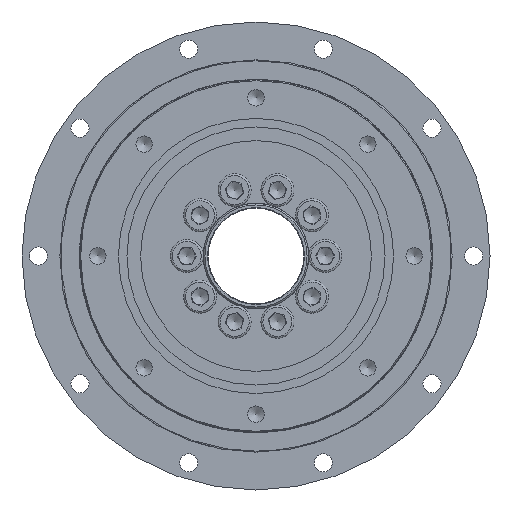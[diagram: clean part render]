
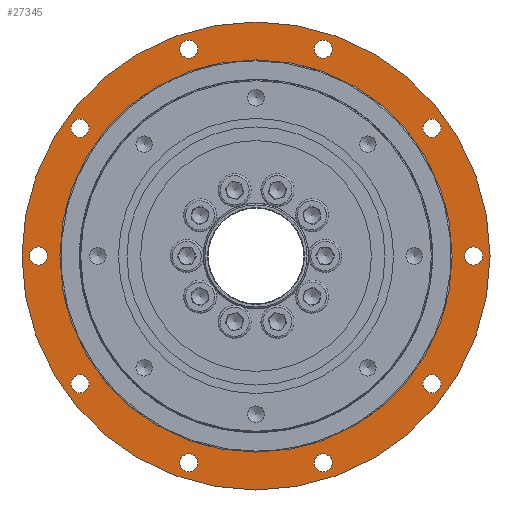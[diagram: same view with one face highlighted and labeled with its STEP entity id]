
A CAD part, left-side view. The second image highlights one B-rep face of the part: STEP entity #27345.
In plain terms, the highlighted planar face has unit normal (-1, 0, 0).
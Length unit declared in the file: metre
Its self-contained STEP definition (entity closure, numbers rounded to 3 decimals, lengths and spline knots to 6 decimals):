
#170 = VERTEX_POINT ( 'NONE', #8814 ) ;
#270 = EDGE_CURVE ( 'NONE', #7570, #7570, #13229, .T. ) ;
#324 = ORIENTED_EDGE ( 'NONE', *, *, #6973, .F. ) ;
#360 = FACE_BOUND ( 'NONE', #15705, .T. ) ;
#459 = CARTESIAN_POINT ( 'NONE',  ( -0.02645, 0.066, -0.00275 ) ) ;
#504 = FACE_BOUND ( 'NONE', #647, .T. ) ;
#647 = EDGE_LOOP ( 'NONE', ( #24076 ) ) ;
#665 = EDGE_LOOP ( 'NONE', ( #21497 ) ) ;
#921 = ORIENTED_EDGE ( 'NONE', *, *, #21642, .F. ) ;
#1034 = CARTESIAN_POINT ( 'NONE',  ( -0.02645, 0.020395, 0.06277 ) ) ;
#1110 = DIRECTION ( 'NONE',  ( 0., 0., -1. ) ) ;
#1190 = DIRECTION ( 'NONE',  ( 0., 0., 1. ) ) ;
#1246 = CARTESIAN_POINT ( 'NONE',  ( -0.02645, -0.066, 0. ) ) ;
#1389 = CIRCLE ( 'NONE', #11752, 0.00275 ) ;
#2100 = DIRECTION ( 'NONE',  ( 1., 0., 0. ) ) ;
#2236 = FACE_BOUND ( 'NONE', #4587, .T. ) ;
#2317 = CARTESIAN_POINT ( 'NONE',  ( -0.02645, 0.020395, -0.06277 ) ) ;
#2461 = DIRECTION ( 'NONE',  ( 0., 0., -1. ) ) ;
#2480 = VERTEX_POINT ( 'NONE', #459 ) ;
#2739 = DIRECTION ( 'NONE',  ( 0., 0., -1. ) ) ;
#3425 = DIRECTION ( 'NONE',  ( 0., 0., -1. ) ) ;
#3443 = VERTEX_POINT ( 'NONE', #20949 ) ;
#3772 = AXIS2_PLACEMENT_3D ( 'NONE', #21937, #13196, #21805 ) ;
#3833 = CIRCLE ( 'NONE', #20520, 0.071 ) ;
#3910 = CARTESIAN_POINT ( 'NONE',  ( -0.02645, 0., 0.071 ) ) ;
#4097 = CIRCLE ( 'NONE', #12229, 0.00275 ) ;
#4152 = EDGE_CURVE ( 'NONE', #170, #170, #27554, .T. ) ;
#4587 = EDGE_LOOP ( 'NONE', ( #921 ) ) ;
#4617 = DIRECTION ( 'NONE',  ( -1., 0., 0. ) ) ;
#4753 = EDGE_CURVE ( 'NONE', #5411, #5411, #10305, .T. ) ;
#4762 = DIRECTION ( 'NONE',  ( 0., 0., -1. ) ) ;
#5411 = VERTEX_POINT ( 'NONE', #17959 ) ;
#5588 = DIRECTION ( 'NONE',  ( 0., 0., 1. ) ) ;
#5785 = ORIENTED_EDGE ( 'NONE', *, *, #6687, .F. ) ;
#5978 = CIRCLE ( 'NONE', #20845, 0.0595 ) ;
#6388 = AXIS2_PLACEMENT_3D ( 'NONE', #1034, #22477, #2739 ) ;
#6492 = FACE_BOUND ( 'NONE', #13772, .T. ) ;
#6644 = EDGE_CURVE ( 'NONE', #3443, #3443, #4097, .T. ) ;
#6687 = EDGE_CURVE ( 'NONE', #12190, #12190, #1389, .T. ) ;
#6973 = EDGE_CURVE ( 'NONE', #16420, #16420, #26443, .T. ) ;
#7570 = VERTEX_POINT ( 'NONE', #16152 ) ;
#8517 = AXIS2_PLACEMENT_3D ( 'NONE', #16807, #20636, #10053 ) ;
#8814 = CARTESIAN_POINT ( 'NONE',  ( -0.02645, 0.020395, 0.06002 ) ) ;
#9114 = ORIENTED_EDGE ( 'NONE', *, *, #270, .F. ) ;
#9159 = FACE_BOUND ( 'NONE', #665, .T. ) ;
#9203 = VERTEX_POINT ( 'NONE', #19497 ) ;
#9211 = AXIS2_PLACEMENT_3D ( 'NONE', #25939, #2100, #15094 ) ;
#9685 = CARTESIAN_POINT ( 'NONE',  ( -0.02645, 0., 0.0595 ) ) ;
#9880 = EDGE_LOOP ( 'NONE', ( #16363 ) ) ;
#10053 = DIRECTION ( 'NONE',  ( 0., 0., -1. ) ) ;
#10305 = CIRCLE ( 'NONE', #8517, 0.00275 ) ;
#10916 = ORIENTED_EDGE ( 'NONE', *, *, #22535, .F. ) ;
#11139 = FACE_BOUND ( 'NONE', #18872, .T. ) ;
#11144 = EDGE_CURVE ( 'NONE', #9203, #9203, #23914, .T. ) ;
#11415 = CARTESIAN_POINT ( 'NONE',  ( -0.02645, -0.053395, 0.038794 ) ) ;
#11552 = EDGE_LOOP ( 'NONE', ( #324 ) ) ;
#11556 = CARTESIAN_POINT ( 'NONE',  ( -0.02645, 0.066, 0. ) ) ;
#11562 = DIRECTION ( 'NONE',  ( -1., 0., 0. ) ) ;
#11700 = CARTESIAN_POINT ( 'NONE',  ( -0.02645, -0.020395, 0.06277 ) ) ;
#11752 = AXIS2_PLACEMENT_3D ( 'NONE', #1246, #24681, #27222 ) ;
#11947 = CARTESIAN_POINT ( 'NONE',  ( -0.02645, 0., 0. ) ) ;
#12168 = DIRECTION ( 'NONE',  ( -1., 0., 0. ) ) ;
#12190 = VERTEX_POINT ( 'NONE', #20654 ) ;
#12229 = AXIS2_PLACEMENT_3D ( 'NONE', #11700, #11562, #1110 ) ;
#13196 = DIRECTION ( 'NONE',  ( -1., 0., 0. ) ) ;
#13229 = CIRCLE ( 'NONE', #14149, 0.00275 ) ;
#13484 = ORIENTED_EDGE ( 'NONE', *, *, #4152, .F. ) ;
#13600 = EDGE_CURVE ( 'NONE', #24104, #24104, #15027, .T. ) ;
#13772 = EDGE_LOOP ( 'NONE', ( #14604 ) ) ;
#13931 = EDGE_LOOP ( 'NONE', ( #5785 ) ) ;
#14022 = AXIS2_PLACEMENT_3D ( 'NONE', #2317, #26147, #2461 ) ;
#14041 = VERTEX_POINT ( 'NONE', #9685 ) ;
#14149 = AXIS2_PLACEMENT_3D ( 'NONE', #25007, #12168, #3425 ) ;
#14604 = ORIENTED_EDGE ( 'NONE', *, *, #11144, .F. ) ;
#15027 = CIRCLE ( 'NONE', #3772, 0.00275 ) ;
#15094 = DIRECTION ( 'NONE',  ( 0., 0., -1. ) ) ;
#15499 = DIRECTION ( 'NONE',  ( 0., 0., -1. ) ) ;
#15705 = EDGE_LOOP ( 'NONE', ( #22103 ) ) ;
#16143 = VERTEX_POINT ( 'NONE', #18282 ) ;
#16152 = CARTESIAN_POINT ( 'NONE',  ( -0.02645, -0.053395, -0.041544 ) ) ;
#16363 = ORIENTED_EDGE ( 'NONE', *, *, #4753, .F. ) ;
#16420 = VERTEX_POINT ( 'NONE', #23037 ) ;
#16572 = CARTESIAN_POINT ( 'NONE',  ( -0.02645, 0., 0. ) ) ;
#16743 = VERTEX_POINT ( 'NONE', #3910 ) ;
#16801 = AXIS2_PLACEMENT_3D ( 'NONE', #11556, #17618, #20159 ) ;
#16807 = CARTESIAN_POINT ( 'NONE',  ( -0.02645, 0.053395, 0.038794 ) ) ;
#17119 = EDGE_LOOP ( 'NONE', ( #10916 ) ) ;
#17340 = FACE_BOUND ( 'NONE', #17421, .T. ) ;
#17421 = EDGE_LOOP ( 'NONE', ( #13484 ) ) ;
#17618 = DIRECTION ( 'NONE',  ( -1., 0., 0. ) ) ;
#17959 = CARTESIAN_POINT ( 'NONE',  ( -0.02645, 0.053395, 0.036044 ) ) ;
#18282 = CARTESIAN_POINT ( 'NONE',  ( -0.02645, -0.053395, 0.036044 ) ) ;
#18743 = EDGE_LOOP ( 'NONE', ( #19653 ) ) ;
#18872 = EDGE_LOOP ( 'NONE', ( #9114 ) ) ;
#19475 = CIRCLE ( 'NONE', #24884, 0.00275 ) ;
#19497 = CARTESIAN_POINT ( 'NONE',  ( -0.02645, 0.020395, -0.06552 ) ) ;
#19653 = ORIENTED_EDGE ( 'NONE', *, *, #19755, .F. ) ;
#19725 = FACE_BOUND ( 'NONE', #11552, .T. ) ;
#19755 = EDGE_CURVE ( 'NONE', #16743, #16743, #3833, .T. ) ;
#19875 = FACE_BOUND ( 'NONE', #17119, .T. ) ;
#20015 = CARTESIAN_POINT ( 'NONE',  ( -0.02645, 0.053395, -0.041544 ) ) ;
#20159 = DIRECTION ( 'NONE',  ( 0., 0., -1. ) ) ;
#20520 = AXIS2_PLACEMENT_3D ( 'NONE', #16572, #22920, #1190 ) ;
#20636 = DIRECTION ( 'NONE',  ( -1., 0., 0. ) ) ;
#20654 = CARTESIAN_POINT ( 'NONE',  ( -0.02645, -0.066, -0.00275 ) ) ;
#20845 = AXIS2_PLACEMENT_3D ( 'NONE', #11947, #24906, #5588 ) ;
#20949 = CARTESIAN_POINT ( 'NONE',  ( -0.02645, -0.020395, 0.06002 ) ) ;
#21449 = PLANE ( 'NONE',  #9211 ) ;
#21497 = ORIENTED_EDGE ( 'NONE', *, *, #6644, .F. ) ;
#21642 = EDGE_CURVE ( 'NONE', #2480, #2480, #24451, .T. ) ;
#21805 = DIRECTION ( 'NONE',  ( 0., 0., -1. ) ) ;
#21843 = CARTESIAN_POINT ( 'NONE',  ( -0.02645, -0.020395, -0.06277 ) ) ;
#21937 = CARTESIAN_POINT ( 'NONE',  ( -0.02645, 0.053395, -0.038794 ) ) ;
#22103 = ORIENTED_EDGE ( 'NONE', *, *, #13600, .F. ) ;
#22477 = DIRECTION ( 'NONE',  ( -1., 0., 0. ) ) ;
#22535 = EDGE_CURVE ( 'NONE', #14041, #14041, #5978, .T. ) ;
#22782 = EDGE_CURVE ( 'NONE', #16143, #16143, #19475, .T. ) ;
#22920 = DIRECTION ( 'NONE',  ( 1., 0., 0. ) ) ;
#23037 = CARTESIAN_POINT ( 'NONE',  ( -0.02645, -0.020395, -0.06552 ) ) ;
#23743 = AXIS2_PLACEMENT_3D ( 'NONE', #21843, #4617, #4762 ) ;
#23814 = FACE_BOUND ( 'NONE', #13931, .T. ) ;
#23914 = CIRCLE ( 'NONE', #14022, 0.00275 ) ;
#24076 = ORIENTED_EDGE ( 'NONE', *, *, #22782, .F. ) ;
#24104 = VERTEX_POINT ( 'NONE', #20015 ) ;
#24241 = DIRECTION ( 'NONE',  ( -1., 0., 0. ) ) ;
#24451 = CIRCLE ( 'NONE', #16801, 0.00275 ) ;
#24681 = DIRECTION ( 'NONE',  ( -1., 0., 0. ) ) ;
#24884 = AXIS2_PLACEMENT_3D ( 'NONE', #11415, #24241, #15499 ) ;
#24906 = DIRECTION ( 'NONE',  ( -1., 0., 0. ) ) ;
#25007 = CARTESIAN_POINT ( 'NONE',  ( -0.02645, -0.053395, -0.038794 ) ) ;
#25939 = CARTESIAN_POINT ( 'NONE',  ( -0.02645, 0.0595, 0. ) ) ;
#26068 = FACE_BOUND ( 'NONE', #9880, .T. ) ;
#26147 = DIRECTION ( 'NONE',  ( -1., 0., 0. ) ) ;
#26216 = FACE_OUTER_BOUND ( 'NONE', #18743, .T. ) ;
#26443 = CIRCLE ( 'NONE', #23743, 0.00275 ) ;
#27222 = DIRECTION ( 'NONE',  ( 0., 0., -1. ) ) ;
#27345 = ADVANCED_FACE ( 'NONE', ( #26216, #19875, #26068, #17340, #9159, #504, #23814, #11139, #19725, #6492, #360, #2236 ), #21449, .F. ) ;
#27554 = CIRCLE ( 'NONE', #6388, 0.00275 ) ;
